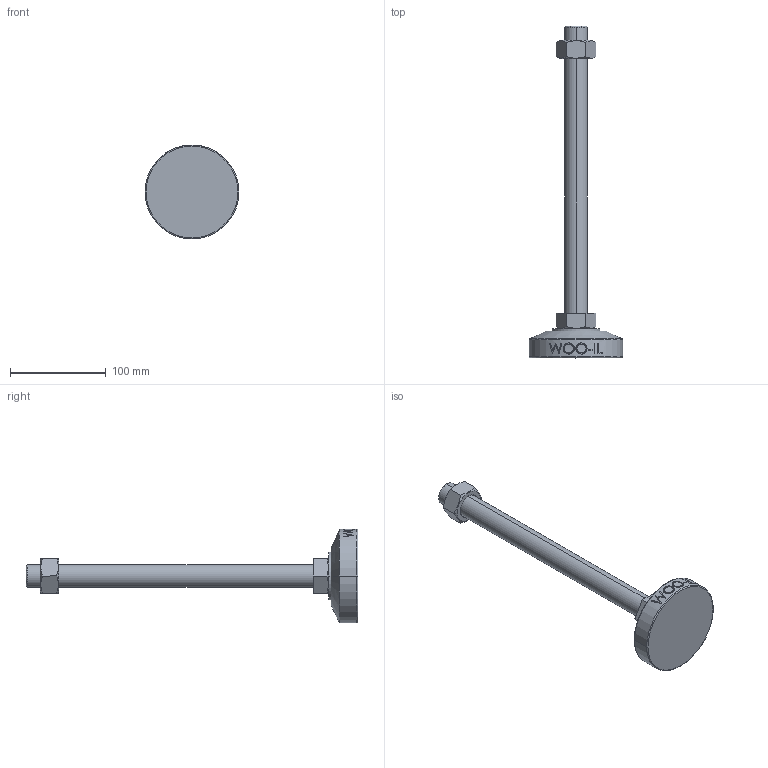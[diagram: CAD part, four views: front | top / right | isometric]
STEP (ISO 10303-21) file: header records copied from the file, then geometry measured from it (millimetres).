
FILE_DESCRIPTION (( 'STEP AP214' ), '1' );
FILE_NAME ('MFB98-M24-300.step', '2022-06-27T08:37:02', ( '' ), ( '' ), 'SwSTEP 2.0', 'SolidWorks 2019', '' );
FILE_SCHEMA (( 'AUTOMOTIVE_DESIGN' ));
Length unit declared in the file: millimetre
Products named in the file (1): MFB98-M24-300
Bounding box: 98 x 346.5 x 98 mm (x, y, z)
Volume: 361243 mm3; surface area: 53412.4 mm2
Topology: 3 solids, 3 shells, 97 faces, 225 edges, 144 vertices
Faces by surface type: plane 47, cylinder 16, bspline 16, cone 14, torus 4
Entity records: 4451 total; most frequent: CARTESIAN_POINT 2321, ORIENTED_EDGE 450, DIRECTION 385, EDGE_CURVE 225, VERTEX_POINT 144, AXIS2_PLACEMENT_3D 144, EDGE_LOOP 109, LINE 97
